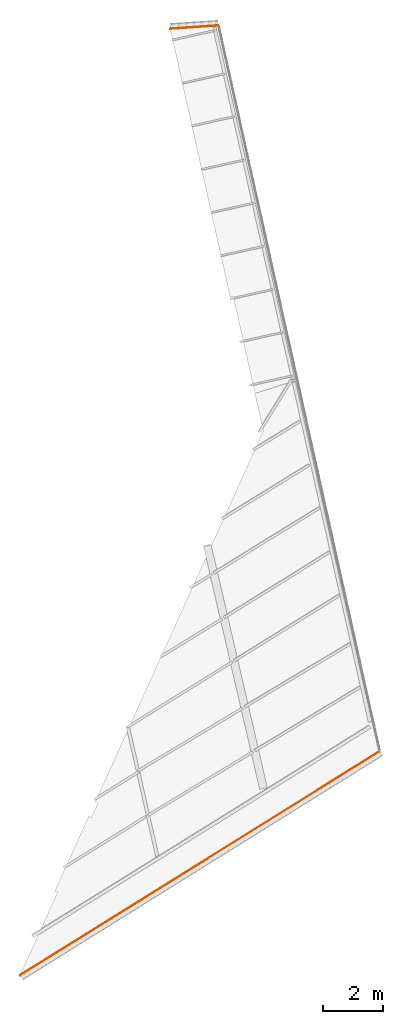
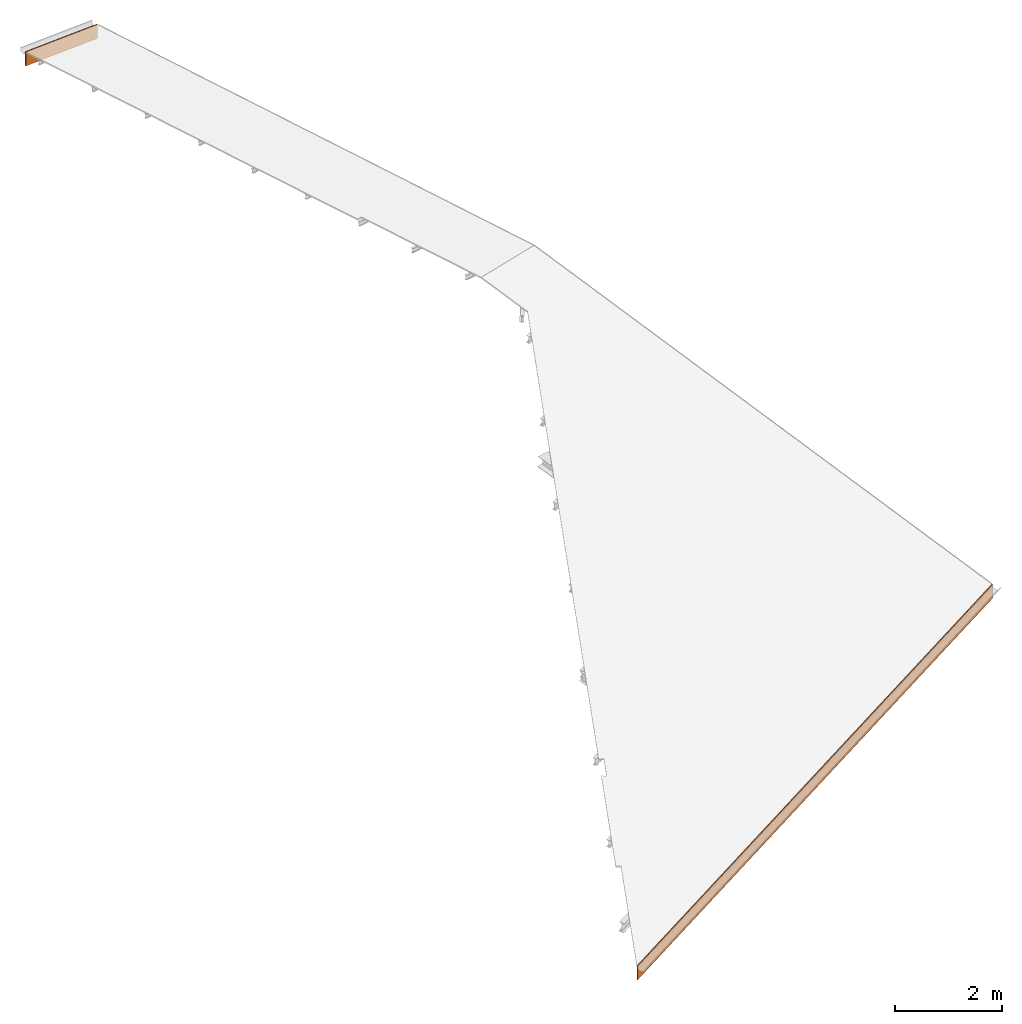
# One storey, part 5 of 5: 2 proxies.
"""IFC2X3 building model written with IfcOpenShell, lengths in centimetres."""

from ifc_helpers import new_model, entity, si_unit, converted_unit, derived_unit, direction, frame, frame_2d, origin, place, context, subcontext, project, spatial, polyline, circle_curve, parameter, trimmed, segment, composite_curve, outline, extrude, element, save


model = new_model("IFC2X3")

# Units and contexts
model_context = context("Model", 3, precision=0.001, world=origin(), true_north=direction((6.12303176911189e-17, 1.0)))
body_context = subcontext(model_context, "Body", "Model", "MODEL_VIEW")
ifc_project = project(units=[si_unit("LENGTHUNIT", "METRE", prefix="CENTI"), si_unit("AREAUNIT", "SQUARE_METRE"), si_unit("VOLUMEUNIT", "CUBIC_METRE"), converted_unit("PLANEANGLEUNIT", "DEGREE", entity("IfcRatioMeasure", 0.0174532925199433), si_unit("PLANEANGLEUNIT", "RADIAN"), dimensions=[0, 0, 0, 0, 0, 0, 0]), si_unit("MASSUNIT", "GRAM", prefix="KILO"), derived_unit("MASSDENSITYUNIT", [(si_unit("MASSUNIT", "GRAM", prefix="KILO"), 1), (si_unit("LENGTHUNIT", "METRE"), -3)]), si_unit("TIMEUNIT", "SECOND"), si_unit("FREQUENCYUNIT", "HERTZ"), si_unit("THERMODYNAMICTEMPERATUREUNIT", "DEGREE_CELSIUS"), derived_unit("THERMALTRANSMITTANCEUNIT", [(si_unit("MASSUNIT", "GRAM", prefix="KILO"), 1), (si_unit("THERMODYNAMICTEMPERATUREUNIT", "KELVIN"), -1), (si_unit("TIMEUNIT", "SECOND"), -3)]), derived_unit("VOLUMETRICFLOWRATEUNIT", [(si_unit("LENGTHUNIT", "METRE"), 3), (si_unit("TIMEUNIT", "SECOND"), -1)]), si_unit("ELECTRICCURRENTUNIT", "AMPERE"), si_unit("ELECTRICVOLTAGEUNIT", "VOLT"), si_unit("POWERUNIT", "WATT"), si_unit("FORCEUNIT", "NEWTON", prefix="KILO"), si_unit("ILLUMINANCEUNIT", "LUX"), si_unit("LUMINOUSFLUXUNIT", "LUMEN"), si_unit("LUMINOUSINTENSITYUNIT", "CANDELA"), derived_unit("USERDEFINED", [(si_unit("MASSUNIT", "GRAM", prefix="KILO"), -1), (si_unit("LENGTHUNIT", "METRE"), -2), (si_unit("TIMEUNIT", "SECOND"), 3), (si_unit("LUMINOUSFLUXUNIT", "LUMEN"), 1)]), derived_unit("LINEARVELOCITYUNIT", [(si_unit("LENGTHUNIT", "METRE"), 1), (si_unit("TIMEUNIT", "SECOND"), -1)]), si_unit("PRESSUREUNIT", "PASCAL"), derived_unit("USERDEFINED", [(si_unit("LENGTHUNIT", "METRE"), -2), (si_unit("MASSUNIT", "GRAM", prefix="KILO"), 1), (si_unit("TIMEUNIT", "SECOND"), -2)])], contexts=[model_context])

# Site, building, storey
site_placement = place(None, frame((2611.71187422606, 13650.4058644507, 0.0), z_axis=(0.0, 0.0, 1.0), x_axis=(0.0673222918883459, -0.997731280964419, 0.0)))
site = spatial("IfcSite", under=ifc_project, at=site_placement, Name="Surface", CompositionType="ELEMENT")
building_placement = place(site_placement, origin())
building = spatial("IfcBuilding", under=site, at=building_placement, CompositionType="ELEMENT")
storey_placement = place(building_placement, frame((0.0, 0.0, 87229.0)))
storey = spatial("IfcBuildingStorey", under=building, at=storey_placement, Name="1 Toiture auvent", CompositionType="ELEMENT", Elevation=87229.0)

# Proxies
proxy_1_placement = place(storey_placement, origin())
element("IfcBuildingElementProxy", 1, at=proxy_1_placement, inside=storey, Name="Bord de toiture:Habillage de rive H = 25cm", ObjectType="Bord de toiture:Habillage de rive H = 25cm", context=body_context, shape_type="SweptSolid", body=[
    extrude(outline(composite_curve([segment(polyline([(-0.899999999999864, -19.0999999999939), (1.10000000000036, -19.0999999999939)]), True, "CONTINUOUS"), segment(polyline([(1.10000000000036, -19.0999999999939), (1.10000000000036, 12.9000000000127)]), True, "CONTINUOUS"), segment(polyline([(1.10000000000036, 12.9000000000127), (-0.399999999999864, 12.9000000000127)]), True, "CONTINUOUS"), segment(trimmed(circle_curve(frame_2d((-0.899999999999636, 12.9000000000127), x_axis=(-1.0, 0.0)), 0.499999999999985), [parameter(90.0000000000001)], [parameter(180.0)], True, "PARAMETER"), False, "CONTINUOUS"), segment(polyline([(-0.899999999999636, 12.4000000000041), (-0.899999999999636, -19.0999999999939)]), True, "CONTINUOUS")], self_intersect=False)), frame((1940.57474230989, 1025.87754497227, 23.2144639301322), z_axis=(0.0, 1.0, 0.0), x_axis=(1.0, 0.0, 0.0)), (0.0, 0.0, 1.0), 161.450429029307),
])
proxy_2_placement = place(storey_placement, origin())
element("IfcBuildingElementProxy", 2, at=proxy_2_placement, inside=storey, Name="Bord de toiture:Habillage de rive H = 25cm", ObjectType="Bord de toiture:Habillage de rive H = 25cm", context=body_context, shape_type="SweptSolid", body=[
    extrude(outline(composite_curve([segment(polyline([(-19.0999999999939, 0.900000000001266), (-19.0999999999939, -1.09999999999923)]), True, "CONTINUOUS"), segment(polyline([(-19.0999999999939, -1.09999999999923), (12.9000000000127, -1.09999999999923)]), True, "CONTINUOUS"), segment(polyline([(12.9000000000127, -1.09999999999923), (12.9000000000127, 0.400000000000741)]), True, "CONTINUOUS"), segment(trimmed(circle_curve(frame_2d((12.9000000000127, 0.900000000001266), x_axis=(0.0, 1.0)), 0.499999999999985), [parameter(90.0000000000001)], [parameter(180.0)], True, "PARAMETER"), False, "CONTINUOUS"), segment(polyline([(12.4000000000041, 0.900000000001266), (-19.0999999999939, 0.900000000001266)]), True, "CONTINUOUS")], self_intersect=False)), frame((5060.7978727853, 313.456479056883, 23.2144639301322), z_axis=(0.470413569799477, -0.882446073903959, 0.0), x_axis=(0.0, 0.0, -1.0)), (0.0, 0.0, -1.0), 1414.1297242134),
])

save(model, "model.ifc")
